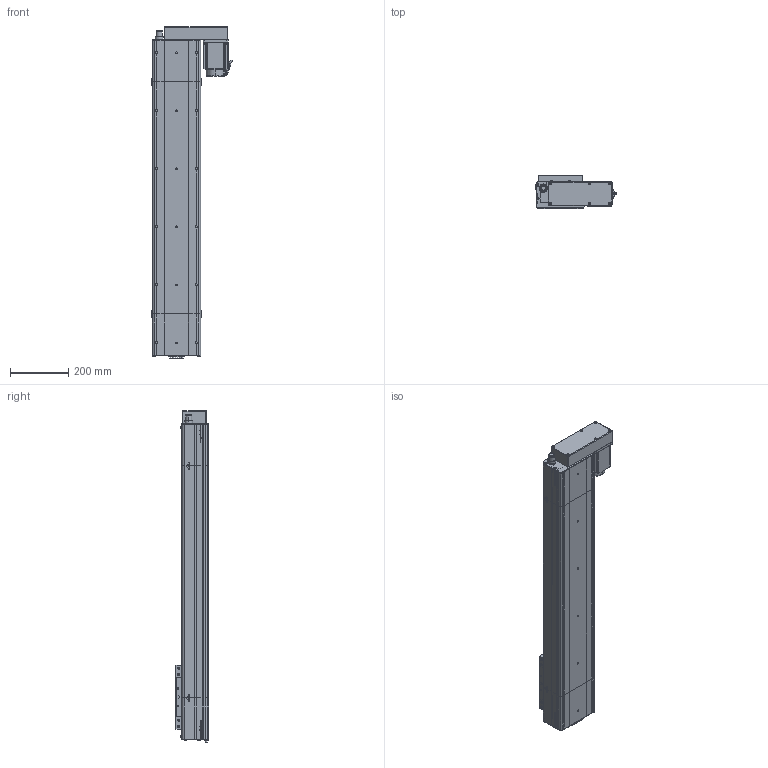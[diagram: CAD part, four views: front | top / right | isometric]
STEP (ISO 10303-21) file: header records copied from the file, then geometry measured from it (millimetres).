
FILE_DESCRIPTION (( 'STEP AP214' ), '1' );
FILE_NAME ('D17 CSH BL S800.STEP', '2010-06-29T14:12:34', ( 'Christophe Gaillard' ), ( 'SGA' ), 'SwSTEP 2.0', 'SolidWorks 2010', '' );
FILE_SCHEMA (( 'AUTOMOTIVE_DESIGN' ));
Length unit declared in the file: millimetre
Products named in the file (29): couvercle D17 head BL_Default; D17 CSH BL S800; Corp Head  D17 BL_Default; avant 90BLDC100A-640; plaque de serrage D17 head BL_Default; Head D17 BL_Default; Conecteur_Default; Plaque de bout D17 head BL_Default; vis M5 L47_Default; Support Moteur BL_Default; vis M5 L60_Default; Moteur motionking 90BLDC100A-640; corps 90BLDC100A-640; couvercle D17-800_Default; codeur 90BLDC100-640; Conecteur2_Default; Plaque de bout D17_Default; ecrou_Default; chariot D17_Default; Corp L800_Default; Corp D17 S800_Default; couvercle D17_Default; plaque de serrage D17_Default; Corp Tail D17_Default; Tail D17_Default; Chariot D17_Default; support chariot D17_Default; glissiere_Default; vis M5 L15_Default
Assembly tree (52 placements, depth 4):
  D17 CSH BL S800
    Chariot D17_Default
      vis M5 L15_Default  x8
      support chariot D17_Default
      glissiere_Default
      chariot D17_Default
    Corp D17 S800_Default
      couvercle D17-800_Default
      Corp L800_Default
    Tail D17_Default
      couvercle D17_Default
      vis M5 L15_Default  x6
      Corp Tail D17_Default
      Plaque de bout D17_Default
      plaque de serrage D17_Default
    Head D17 BL_Default
      vis M5 L47_Default  x2
      vis M5 L60_Default  x4
      Corp Head  D17 BL_Default
      Support Moteur BL_Default
      ecrou_Default  x4
      plaque de serrage D17 head BL_Default
      vis M5 L15_Default  x4
      couvercle D17 head BL_Default
      Moteur motionking 90BLDC100A-640
        Conecteur2_Default
        codeur 90BLDC100-640
        avant 90BLDC100A-640
        Conecteur_Default
        corps 90BLDC100A-640
      Plaque de bout D17 head BL_Default
Bounding box: 279.16 x 114 x 1144.2 mm (x, y, z)
Volume: 8542054 mm3; surface area: 1522136.2 mm2
Topology: 89 solids, 89 shells, 3174 faces, 7990 edges, 5210 vertices
Faces by surface type: plane 1881, bspline 758, cylinder 416, torus 67, cone 48, sphere 4
Entity records: 148740 total; most frequent: CARTESIAN_POINT 81060, ORIENTED_EDGE 13520, DIRECTION 9774, EDGE_CURVE 6760, LINE 4566, VECTOR 4566, VERTEX_POINT 4478, EDGE_LOOP 2872
